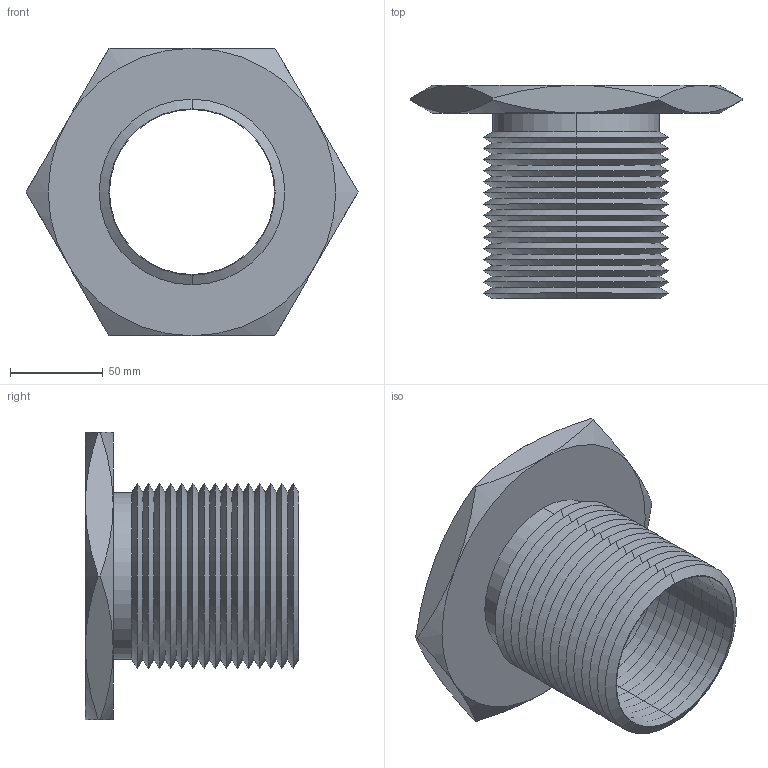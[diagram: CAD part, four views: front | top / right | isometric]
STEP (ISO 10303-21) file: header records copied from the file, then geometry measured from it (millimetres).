
FILE_DESCRIPTION (( 'STEP AP203' ), '1' );
FILE_NAME ('63302.W0100_3,50 UNC-4.step', '2013-12-08T11:35:27', ( 'User' ), ( '' ), 'SwSTEP 2.0', 'SolidWorks 2009', '' );
FILE_SCHEMA (( 'CONFIG_CONTROL_DESIGN' ));
Length unit declared in the file: millimetre
Products named in the file (1): 63302.W0100_3,50 UNC-4
Bounding box: 178.98 x 115 x 155 mm (x, y, z)
Volume: 283295.1 mm3; surface area: 122859 mm2
Topology: 1 solids, 1 shells, 87 faces, 178 edges, 94 vertices
Faces by surface type: cone 74, plane 9, cylinder 4
Entity records: 2479 total; most frequent: CARTESIAN_POINT 584, DIRECTION 412, ORIENTED_EDGE 356, EDGE_CURVE 178, AXIS2_PLACEMENT_3D 170, VERTEX_POINT 94, EDGE_LOOP 90, ADVANCED_FACE 87
